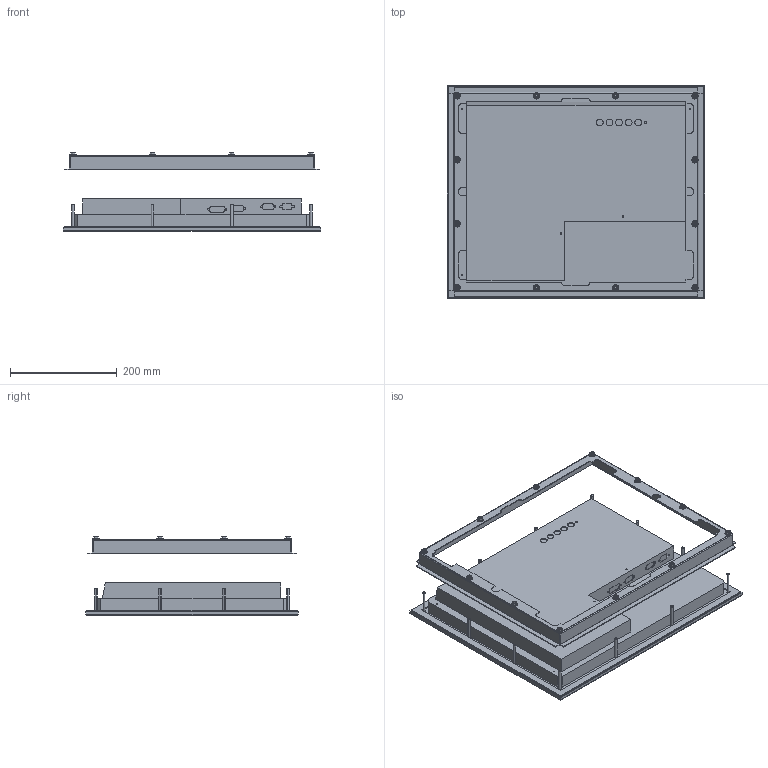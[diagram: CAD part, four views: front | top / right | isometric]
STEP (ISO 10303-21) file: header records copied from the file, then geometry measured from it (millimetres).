
FILE_DESCRIPTION (( 'STEP AP214' ), '1' );
FILE_NAME ('19 inch Panel Mount Monitor, HIS-ML19-xxxH.STEP', '2017-06-23T19:34:30', ( '' ), ( '' ), 'SwSTEP 2.0', 'SolidWorks 2017', '' );
FILE_SCHEMA (( 'AUTOMOTIVE_DESIGN' ));
Length unit declared in the file: millimetre
Products named in the file (4): M5 Nut, 30008_M5 Nut - 30008; Collar, 10043; Monitor, 19H; 19 inch Panel Mount Monitor, HIS-ML19-xxxH
Assembly tree (14 placements, depth 2):
  19 inch Panel Mount Monitor, HIS-ML19-xxxH
    Monitor, 19H
    Collar, 10043
    M5 Nut, 30008_M5 Nut - 30008  x12
Bounding box: 482.6 x 398.78 x 147.61 mm (x, y, z)
Volume: 8369368 mm3; surface area: 1213847.9 mm2
Topology: 16 solids, 16 shells, 740 faces, 1695 edges, 1019 vertices
Faces by surface type: plane 293, cylinder 189, cone 154, bspline 80, torus 24
Entity records: 11923 total; most frequent: CARTESIAN_POINT 2607, DIRECTION 1925, ORIENTED_EDGE 1830, EDGE_CURVE 915, AXIS2_PLACEMENT_3D 671, VECTOR 583, LINE 583, VERTEX_POINT 579
